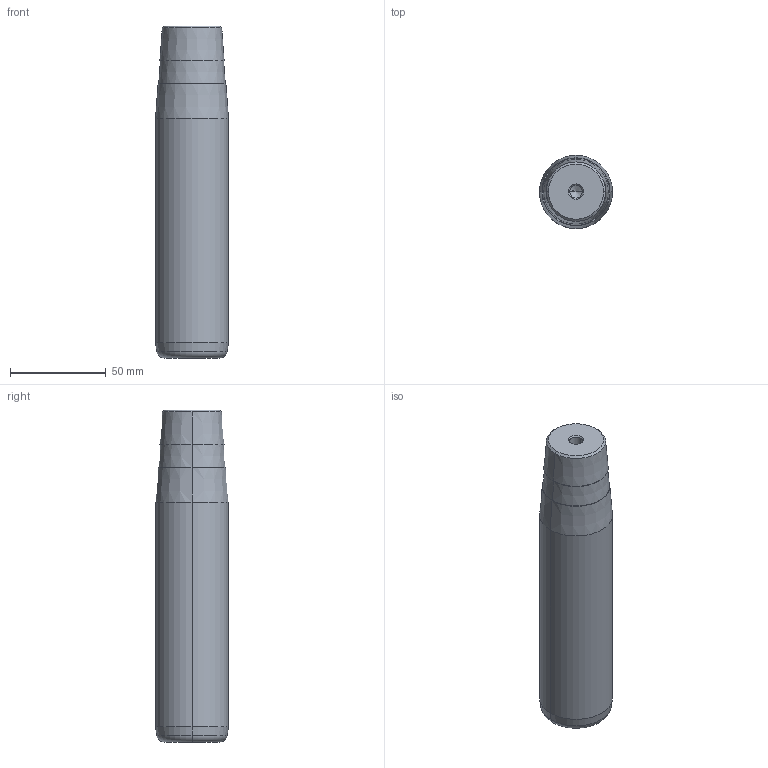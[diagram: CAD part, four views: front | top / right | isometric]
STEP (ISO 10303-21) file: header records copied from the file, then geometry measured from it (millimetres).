
FILE_DESCRIPTION(('CATIA V5 STEP Exchange'),'2;1');
FILE_NAME('C:\Users\Utente\Desktop\IO LAVORO\3D X SITO CF\X SITO\722\722-38x140x173.stp','2021-01-08T16:05:44+00:00',('none'),('none'),'CATIA Version 5 Release 20 GA (IN-10)','CATIA V5 STEP AP203','none');
FILE_SCHEMA(('CONFIG_CONTROL_DESIGN'));
Length unit declared in the file: millimetre
Products named in the file (1): 722-38x140x173
Bounding box: 38 x 38 x 173 mm (x, y, z)
Volume: 183453.7 mm3; surface area: 22780.3 mm2
Topology: 1 solids, 1 shells, 32 faces, 66 edges, 34 vertices
Faces by surface type: cone 22, cylinder 6, plane 2, torus 2
Entity records: 854 total; most frequent: CARTESIAN_POINT 175, DIRECTION 124, ORIENTED_EDGE 124, AXIS2_PLACEMENT_3D 65, EDGE_CURVE 62, EDGE_LOOP 34, VERTEX_POINT 34, ADVANCED_FACE 32
